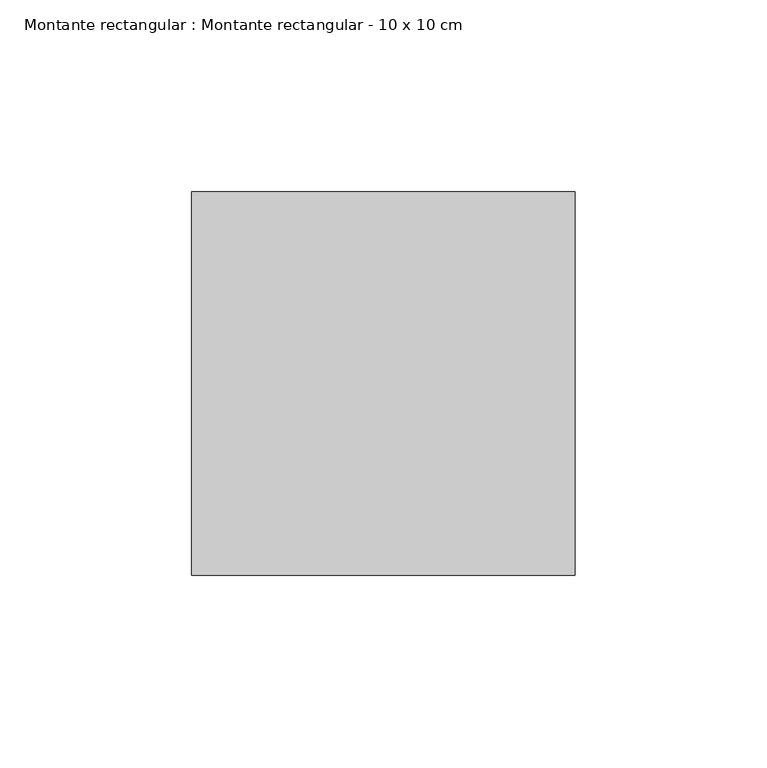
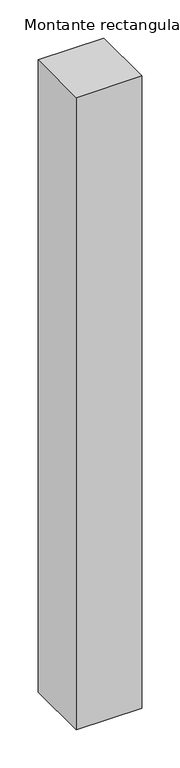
"""IFC4 building model written with IfcOpenShell, lengths in millimetres: member geometry, Montante rectangular : Montante rectangular - 10 x 10 cm."""

from ifc_helpers import new_model, si_unit, frame, origin, place, context, project, spatial, polyline, outline, extrude, source, transform, mapped, element, save


def montante_rectangular_montante_rectangular_10_x_10_cm_d222450f(model_context):
    return source(origin(), model_context, "Body", "SweptSolid", [
        extrude(outline(polyline([(0.0, -50.0), (-100.0, -50.0), (-100.0, 50.0), (0.0, 50.0), (0.0, -50.0)])), frame((0.0, 0.0, -1014.70385), z_axis=(0.0, 0.0, 1.0), x_axis=(1.0, 0.0, 0.0)), (0.0, 0.0, 1.0), 1014.70385),
    ])


if __name__ == "__main__":
    model = new_model("IFC4")
    model_context = context("Model", 3, world=origin())
    ifc_project = project(units=[si_unit("LENGTHUNIT", "METRE", prefix="MILLI")], contexts=[model_context])
    site = spatial("IfcSite", under=ifc_project)
    building = spatial("IfcBuilding", under=site)
    placement = place(None, origin())
    montante_rectangular_montante_rectangular_10_x_10_cm_shape = montante_rectangular_montante_rectangular_10_x_10_cm_d222450f(model_context)
    element("IfcMember", 1, ObjectType="Montante rectangular : Montante rectangular - 10 x 10 cm", at=placement, inside=building, context=model_context, shape_type="MappedRepresentation", body=[
        mapped(montante_rectangular_montante_rectangular_10_x_10_cm_shape, transform((0.0, 0.0, 0.0), x_axis=(1.0, 0.0, 0.0), y_axis=(0.0, 1.0, 0.0), z_axis=(0.0, 0.0, 1.0))),
    ])
    save(model, "model.ifc")
